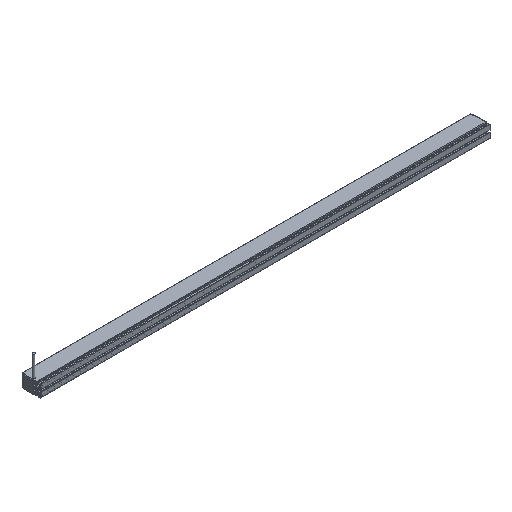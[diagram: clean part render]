
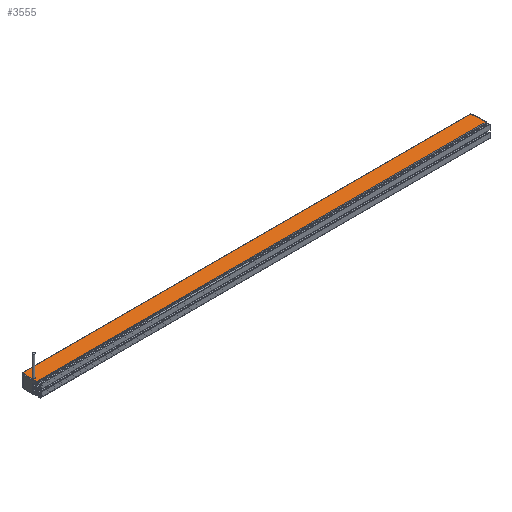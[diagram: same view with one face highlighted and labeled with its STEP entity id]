
A CAD part, isometric view. The second image highlights one B-rep face of the part: STEP entity #3555.
In plain terms, the highlighted planar face has unit normal (0, 0, 1) as drawn and (1, 0, 0) by its records, which use the part's own axes.
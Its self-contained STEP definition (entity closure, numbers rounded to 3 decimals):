
#332=DIRECTION('',(0.,1.,0.));
#333=VECTOR('',#332,17.499);
#334=CARTESIAN_POINT('',(9.,-4.3,-320.5));
#335=LINE('',#334,#333);
#480=CARTESIAN_POINT('',(9.,2.3,317.75));
#481=DIRECTION('',(1.,0.,0.));
#482=DIRECTION('',(0.,0.,-1.));
#483=AXIS2_PLACEMENT_3D('',#480,#481,#482);
#485=CARTESIAN_POINT('',(9.,2.3,317.75));
#486=DIRECTION('',(1.,0.,0.));
#487=DIRECTION('',(0.,0.,1.));
#488=AXIS2_PLACEMENT_3D('',#485,#486,#487);
#490=DIRECTION('',(0.,-1.,0.));
#491=VECTOR('',#490,3.301);
#492=CARTESIAN_POINT('',(9.,16.5,-319.5));
#493=LINE('',#492,#491);
#494=DIRECTION('',(0.,0.,-1.));
#495=VECTOR('',#494,1.);
#496=CARTESIAN_POINT('',(9.,13.199,-319.5));
#497=LINE('',#496,#495);
#498=DIRECTION('',(0.,0.,1.));
#499=VECTOR('',#498,640.);
#500=CARTESIAN_POINT('',(9.,-4.3,-320.5));
#501=LINE('',#500,#499);
#502=DIRECTION('',(0.,0.,-1.));
#503=VECTOR('',#502,639.);
#504=CARTESIAN_POINT('',(9.,16.5,319.5));
#505=LINE('',#504,#503);
#536=DIRECTION('',(0.,-1.,0.));
#537=VECTOR('',#536,3.203);
#538=CARTESIAN_POINT('',(9.,16.5,319.5));
#539=LINE('',#538,#537);
#548=DIRECTION('',(0.,-1.,0.));
#549=VECTOR('',#548,0.1);
#550=CARTESIAN_POINT('',(9.,-4.2,319.5));
#551=LINE('',#550,#549);
#1267=DIRECTION('',(0.,0.,1.));
#1268=VECTOR('',#1267,1.);
#1269=CARTESIAN_POINT('',(9.,13.297,319.5));
#1270=LINE('',#1269,#1268);
#1275=DIRECTION('',(0.,-1.,0.));
#1276=VECTOR('',#1275,17.497);
#1277=CARTESIAN_POINT('',(9.,13.297,320.5));
#1278=LINE('',#1277,#1276);
#1291=DIRECTION('',(0.,0.,-1.));
#1292=VECTOR('',#1291,1.);
#1293=CARTESIAN_POINT('',(9.,-4.2,320.5));
#1294=LINE('',#1293,#1292);
#2290=CARTESIAN_POINT('',(9.,13.297,320.5));
#2292=VERTEX_POINT('',#2290);
#2295=CARTESIAN_POINT('',(9.,-4.2,320.5));
#2296=VERTEX_POINT('',#2295);
#2499=CARTESIAN_POINT('',(9.,16.5,-319.5));
#2501=VERTEX_POINT('',#2499);
#2505=CARTESIAN_POINT('',(9.,-4.3,319.5));
#2507=VERTEX_POINT('',#2505);
#2517=CARTESIAN_POINT('',(9.,16.5,319.5));
#2518=VERTEX_POINT('',#2517);
#2519=CARTESIAN_POINT('',(9.,2.3,319.5));
#2521=VERTEX_POINT('',#2519);
#2525=CARTESIAN_POINT('',(9.,2.3,316.));
#2526=VERTEX_POINT('',#2525);
#2541=CARTESIAN_POINT('',(9.,13.297,319.5));
#2542=VERTEX_POINT('',#2541);
#2544=CARTESIAN_POINT('',(9.,-4.2,319.5));
#2546=VERTEX_POINT('',#2544);
#2645=CARTESIAN_POINT('',(9.,13.199,-320.5));
#2647=VERTEX_POINT('',#2645);
#2649=CARTESIAN_POINT('',(9.,-4.3,-320.5));
#2650=VERTEX_POINT('',#2649);
#2689=CARTESIAN_POINT('',(9.,13.199,-319.5));
#2691=VERTEX_POINT('',#2689);
#3526=CARTESIAN_POINT('',(9.,-4.2,319.5));
#3527=DIRECTION('',(1.,0.,0.));
#3528=DIRECTION('',(0.,1.,0.));
#3529=AXIS2_PLACEMENT_3D('',#3526,#3527,#3528);
#3530=PLANE('',#3529);
#3531=ORIENTED_EDGE('',*,*,#2754,.T.);
#3532=ORIENTED_EDGE('',*,*,#3099,.T.);
#3533=ORIENTED_EDGE('',*,*,#3083,.F.);
#3534=ORIENTED_EDGE('',*,*,#3516,.T.);
#3536=ORIENTED_EDGE('',*,*,#3535,.F.);
#3538=ORIENTED_EDGE('',*,*,#3537,.F.);
#3540=ORIENTED_EDGE('',*,*,#3539,.F.);
#3542=ORIENTED_EDGE('',*,*,#3541,.F.);
#3544=ORIENTED_EDGE('',*,*,#3543,.F.);
#3546=ORIENTED_EDGE('',*,*,#3545,.T.);
#3547=EDGE_LOOP('',(#3531,#3532,#3533,#3534,#3536,#3538,#3540,#3542,#3544,
#3546));
#3548=FACE_OUTER_BOUND('',#3547,.F.);
#3550=ORIENTED_EDGE('',*,*,#3549,.T.);
#3552=ORIENTED_EDGE('',*,*,#3551,.T.);
#3553=EDGE_LOOP('',(#3550,#3552));
#3554=FACE_BOUND('',#3553,.F.);
#484=CIRCLE('',#483,1.75);
#489=CIRCLE('',#488,1.75);
#2754=EDGE_CURVE('',#2501,#2691,#493,.T.);
#3083=EDGE_CURVE('',#2650,#2647,#335,.T.);
#3099=EDGE_CURVE('',#2691,#2647,#497,.T.);
#3516=EDGE_CURVE('',#2650,#2507,#501,.T.);
#3535=EDGE_CURVE('',#2546,#2507,#551,.T.);
#3537=EDGE_CURVE('',#2296,#2546,#1294,.T.);
#3539=EDGE_CURVE('',#2292,#2296,#1278,.T.);
#3541=EDGE_CURVE('',#2542,#2292,#1270,.T.);
#3543=EDGE_CURVE('',#2518,#2542,#539,.T.);
#3545=EDGE_CURVE('',#2518,#2501,#505,.T.);
#3549=EDGE_CURVE('',#2526,#2521,#484,.T.);
#3551=EDGE_CURVE('',#2521,#2526,#489,.T.);
#3555=ADVANCED_FACE('',(#3548,#3554),#3530,.T.);
